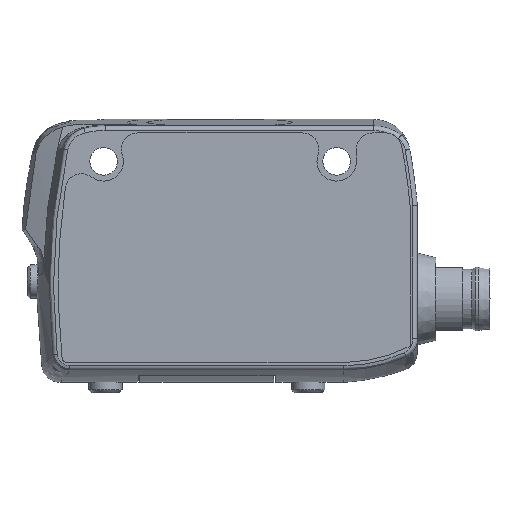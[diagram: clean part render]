
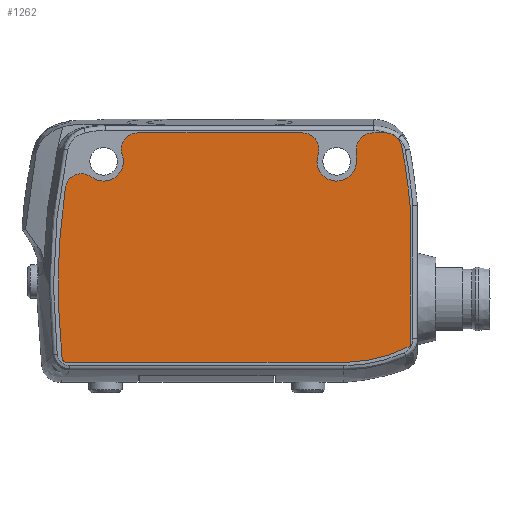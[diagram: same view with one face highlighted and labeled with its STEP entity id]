
A CAD part, left-side view. The second image highlights one B-rep face of the part: STEP entity #1262.
In plain terms, the highlighted planar face has unit normal (-1, 0, 0).
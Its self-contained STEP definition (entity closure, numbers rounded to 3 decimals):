
#73=CARTESIAN_POINT('',(-6.95,14.001,-6.312));
#74=VERTEX_POINT('',#73);
#75=CARTESIAN_POINT('',(-6.95,16.87,-7.474));
#76=VERTEX_POINT('',#75);
#77=CARTESIAN_POINT('',(-6.95,15.09,-7.745));
#78=DIRECTION('',(-1.0,0.0,0.0));
#79=DIRECTION('',(0.0,0.0,1.0));
#80=AXIS2_PLACEMENT_3D('',#77,#78,#79);
#81=CIRCLE('',#80,1.8);
#82=EDGE_CURVE('',#74,#76,#81,.T.);
#1126=CARTESIAN_POINT('',(-6.95,-53.008,-18.103));
#1127=DIRECTION('',(-1.0,0.0,0.0));
#1128=DIRECTION('',(0.0,0.0,1.0));
#1129=AXIS2_PLACEMENT_3D('',#1126,#1127,#1128);
#1130=PLANE('',#1129);
#1131=ORIENTED_EDGE('',*,*,#82,.T.);
#1132=CARTESIAN_POINT('',(-6.95,17.225,-26.056));
#1133=VERTEX_POINT('',#1132);
#1134=CARTESIAN_POINT('',(-6.95,-53.008,-18.103));
#1135=DIRECTION('',(-1.0,0.0,0.0));
#1136=DIRECTION('',(0.0,0.0,1.0));
#1137=AXIS2_PLACEMENT_3D('',#1134,#1135,#1136);
#1138=CIRCLE('',#1137,70.681);
#1139=EDGE_CURVE('',#76,#1133,#1138,.T.);
#1140=ORIENTED_EDGE('',*,*,#1139,.T.);
#1141=CARTESIAN_POINT('',(-6.95,16.728,-26.5));
#1142=VERTEX_POINT('',#1141);
#1143=CARTESIAN_POINT('',(-6.95,16.728,-26.));
#1144=DIRECTION('',(-1.0,0.0,0.0));
#1145=DIRECTION('',(0.0,0.0,1.0));
#1146=AXIS2_PLACEMENT_3D('',#1143,#1144,#1145);
#1147=CIRCLE('',#1146,0.5);
#1148=EDGE_CURVE('',#1133,#1142,#1147,.T.);
#1149=ORIENTED_EDGE('',*,*,#1148,.T.);
#1150=CARTESIAN_POINT('',(-6.95,-13.735,-26.5));
#1151=VERTEX_POINT('',#1150);
#1152=CARTESIAN_POINT('',(-6.95,16.728,-26.5));
#1153=DIRECTION('',(0.0,-1.0,0.0));
#1154=VECTOR('',#1153,30.462);
#1155=LINE('',#1152,#1154);
#1156=EDGE_CURVE('',#1142,#1151,#1155,.T.);
#1157=ORIENTED_EDGE('',*,*,#1156,.T.);
#1158=CARTESIAN_POINT('',(-6.95,-20.7,-24.738));
#1159=VERTEX_POINT('',#1158);
#1160=CARTESIAN_POINT('',(-6.95,-13.444,-10.703));
#1161=DIRECTION('',(-1.0,0.0,0.0));
#1162=DIRECTION('',(0.0,0.0,1.0));
#1163=AXIS2_PLACEMENT_3D('',#1160,#1161,#1162);
#1164=CIRCLE('',#1163,15.8);
#1165=EDGE_CURVE('',#1151,#1159,#1164,.T.);
#1166=ORIENTED_EDGE('',*,*,#1165,.T.);
#1167=CARTESIAN_POINT('',(-6.95,-20.7,-9.436));
#1168=VERTEX_POINT('',#1167);
#1169=CARTESIAN_POINT('',(-6.95,-20.7,-24.738));
#1170=DIRECTION('',(0.0,0.0,1.0));
#1171=VECTOR('',#1170,15.302);
#1172=LINE('',#1169,#1171);
#1173=EDGE_CURVE('',#1159,#1168,#1172,.T.);
#1174=ORIENTED_EDGE('',*,*,#1173,.T.);
#1175=CARTESIAN_POINT('',(-6.95,-19.802,-2.969));
#1176=VERTEX_POINT('',#1175);
#1177=CARTESIAN_POINT('',(-6.95,48.215,-15.705));
#1178=DIRECTION('',(-1.0,0.0,0.0));
#1179=DIRECTION('',(0.0,0.0,1.0));
#1180=AXIS2_PLACEMENT_3D('',#1177,#1178,#1179);
#1181=CIRCLE('',#1180,69.2);
#1182=EDGE_CURVE('',#1168,#1176,#1181,.T.);
#1183=ORIENTED_EDGE('',*,*,#1182,.T.);
#1184=CARTESIAN_POINT('',(-6.95,-18.033,-1.5));
#1185=VERTEX_POINT('',#1184);
#1186=CARTESIAN_POINT('',(-6.95,-18.033,-3.3));
#1187=DIRECTION('',(-1.0,0.0,0.0));
#1188=DIRECTION('',(0.0,0.0,1.0));
#1189=AXIS2_PLACEMENT_3D('',#1186,#1187,#1188);
#1190=CIRCLE('',#1189,1.8);
#1191=EDGE_CURVE('',#1176,#1185,#1190,.T.);
#1192=ORIENTED_EDGE('',*,*,#1191,.T.);
#1193=CARTESIAN_POINT('',(-6.95,-16.65,-1.5));
#1194=VERTEX_POINT('',#1193);
#1195=CARTESIAN_POINT('',(-6.95,-18.033,-1.5));
#1196=DIRECTION('',(0.0,1.0,0.0));
#1197=VECTOR('',#1196,1.383);
#1198=LINE('',#1195,#1197);
#1199=EDGE_CURVE('',#1185,#1194,#1198,.T.);
#1200=ORIENTED_EDGE('',*,*,#1199,.T.);
#1201=CARTESIAN_POINT('',(-6.95,-14.85,-3.3));
#1202=VERTEX_POINT('',#1201);
#1203=CARTESIAN_POINT('',(-6.95,-16.65,-3.3));
#1204=DIRECTION('',(-1.0,0.0,0.0));
#1205=DIRECTION('',(0.0,0.0,1.0));
#1206=AXIS2_PLACEMENT_3D('',#1203,#1204,#1205);
#1207=CIRCLE('',#1206,1.8);
#1208=EDGE_CURVE('',#1194,#1202,#1207,.T.);
#1209=ORIENTED_EDGE('',*,*,#1208,.T.);
#1210=CARTESIAN_POINT('',(-6.95,-14.85,-4.6));
#1211=VERTEX_POINT('',#1210);
#1212=CARTESIAN_POINT('',(-6.95,-14.85,-3.3));
#1213=DIRECTION('',(0.0,0.0,-1.0));
#1214=VECTOR('',#1213,1.3);
#1215=LINE('',#1212,#1214);
#1216=EDGE_CURVE('',#1202,#1211,#1215,.T.);
#1217=ORIENTED_EDGE('',*,*,#1216,.T.);
#1218=CARTESIAN_POINT('',(-6.95,-10.67,-3.892));
#1219=VERTEX_POINT('',#1218);
#1220=CARTESIAN_POINT('',(-6.95,-12.7,-4.6));
#1221=DIRECTION('',(1.0,0.0,0.0));
#1222=DIRECTION('',(0.0,0.0,1.0));
#1223=AXIS2_PLACEMENT_3D('',#1220,#1221,#1222);
#1224=CIRCLE('',#1223,2.15);
#1225=EDGE_CURVE('',#1211,#1219,#1224,.T.);
#1226=ORIENTED_EDGE('',*,*,#1225,.T.);
#1227=CARTESIAN_POINT('',(-6.95,-8.97,-1.5));
#1228=VERTEX_POINT('',#1227);
#1229=CARTESIAN_POINT('',(-6.95,-8.97,-3.3));
#1230=DIRECTION('',(-1.0,0.0,0.0));
#1231=DIRECTION('',(0.0,0.0,1.0));
#1232=AXIS2_PLACEMENT_3D('',#1229,#1230,#1231);
#1233=CIRCLE('',#1232,1.8);
#1234=EDGE_CURVE('',#1219,#1228,#1233,.T.);
#1235=ORIENTED_EDGE('',*,*,#1234,.T.);
#1236=CARTESIAN_POINT('',(-6.95,8.97,-1.5));
#1237=VERTEX_POINT('',#1236);
#1238=CARTESIAN_POINT('',(-6.95,-8.97,-1.5));
#1239=DIRECTION('',(0.0,1.0,0.0));
#1240=VECTOR('',#1239,17.94);
#1241=LINE('',#1238,#1240);
#1242=EDGE_CURVE('',#1228,#1237,#1241,.T.);
#1243=ORIENTED_EDGE('',*,*,#1242,.T.);
#1244=CARTESIAN_POINT('',(-6.95,10.67,-3.892));
#1245=VERTEX_POINT('',#1244);
#1246=CARTESIAN_POINT('',(-6.95,8.97,-3.3));
#1247=DIRECTION('',(-1.0,0.0,0.0));
#1248=DIRECTION('',(0.0,0.0,1.0));
#1249=AXIS2_PLACEMENT_3D('',#1246,#1247,#1248);
#1250=CIRCLE('',#1249,1.8);
#1251=EDGE_CURVE('',#1237,#1245,#1250,.T.);
#1252=ORIENTED_EDGE('',*,*,#1251,.T.);
#1253=CARTESIAN_POINT('',(-6.95,12.7,-4.6));
#1254=DIRECTION('',(1.0,0.0,0.0));
#1255=DIRECTION('',(0.0,0.0,1.0));
#1256=AXIS2_PLACEMENT_3D('',#1253,#1254,#1255);
#1257=CIRCLE('',#1256,2.15);
#1258=EDGE_CURVE('',#1245,#74,#1257,.T.);
#1259=ORIENTED_EDGE('',*,*,#1258,.T.);
#1260=EDGE_LOOP('',(#1131,#1140,#1149,#1157,#1166,#1174,#1183,#1192,#1200,#1209,#1217,#1226,#1235,#1243,#1252,#1259));
#1261=FACE_OUTER_BOUND('',#1260,.T.);
#1262=ADVANCED_FACE('',(#1261),#1130,.T.);
